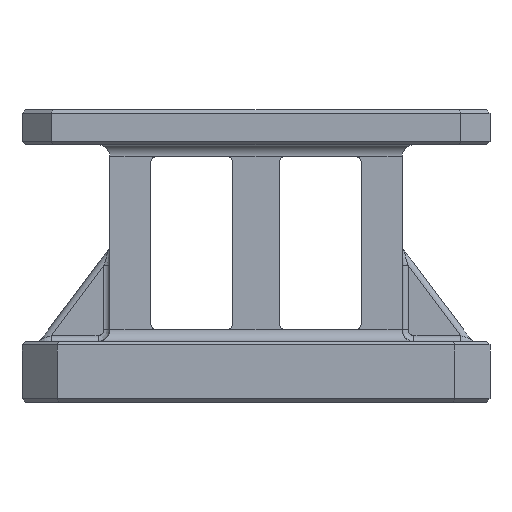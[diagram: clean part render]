
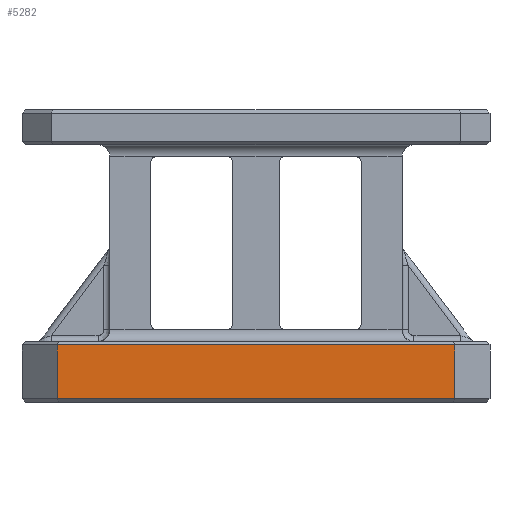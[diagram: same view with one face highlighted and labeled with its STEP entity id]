
A CAD part, front view. The second image highlights one B-rep face of the part: STEP entity #5282.
In plain terms, the highlighted planar face has unit normal (0, -1, 0).
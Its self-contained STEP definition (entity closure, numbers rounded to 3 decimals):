
#829=DIRECTION('',(-1.,0.,0.));
#830=VECTOR('',#829,340.);
#831=CARTESIAN_POINT('',(170.,-200.,-23.));
#832=LINE('',#831,#830);
#833=DIRECTION('',(0.,0.,-1.));
#834=VECTOR('',#833,46.);
#835=CARTESIAN_POINT('',(-170.,-200.,23.));
#836=LINE('',#835,#834);
#837=DIRECTION('',(1.,0.,0.));
#838=VECTOR('',#837,340.);
#839=CARTESIAN_POINT('',(-170.,-200.,23.));
#840=LINE('',#839,#838);
#841=DIRECTION('',(0.,0.,-1.));
#842=VECTOR('',#841,46.);
#843=CARTESIAN_POINT('',(170.,-200.,23.));
#844=LINE('',#843,#842);
#3536=CARTESIAN_POINT('',(170.,-200.,-23.));
#3538=VERTEX_POINT('',#3536);
#3539=CARTESIAN_POINT('',(-170.,-200.,-23.));
#3540=VERTEX_POINT('',#3539);
#3615=CARTESIAN_POINT('',(170.,-200.,23.));
#3616=VERTEX_POINT('',#3615);
#3621=CARTESIAN_POINT('',(-170.,-200.,23.));
#3622=VERTEX_POINT('',#3621);
#5270=CARTESIAN_POINT('',(-200.,-200.,-26.));
#5271=DIRECTION('',(0.,-1.,0.));
#5272=DIRECTION('',(1.,0.,0.));
#5273=AXIS2_PLACEMENT_3D('',#5270,#5271,#5272);
#5274=PLANE('',#5273);
#5275=ORIENTED_EDGE('',*,*,#5262,.T.);
#5276=ORIENTED_EDGE('',*,*,#5061,.F.);
#5278=ORIENTED_EDGE('',*,*,#5277,.T.);
#5279=ORIENTED_EDGE('',*,*,#5236,.T.);
#5280=EDGE_LOOP('',(#5275,#5276,#5278,#5279));
#5281=FACE_OUTER_BOUND('',#5280,.F.);
#5282=ADVANCED_FACE('',(#5281),#5274,.T.);
#5061=EDGE_CURVE('',#3622,#3540,#836,.T.);
#5236=EDGE_CURVE('',#3616,#3538,#844,.T.);
#5262=EDGE_CURVE('',#3538,#3540,#832,.T.);
#5277=EDGE_CURVE('',#3622,#3616,#840,.T.);
